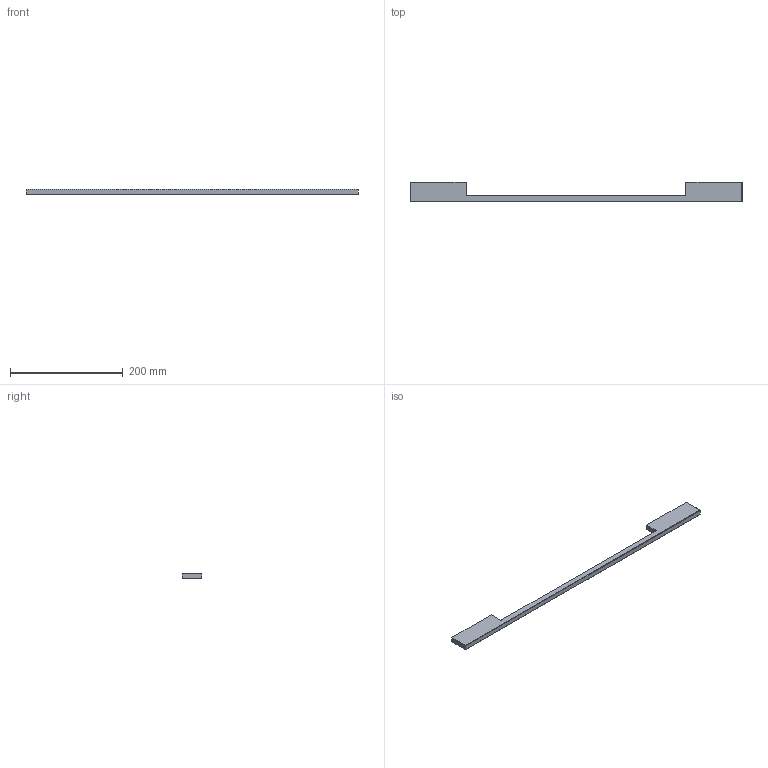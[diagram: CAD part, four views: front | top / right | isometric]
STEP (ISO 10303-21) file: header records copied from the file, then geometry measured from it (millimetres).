
FILE_DESCRIPTION( ( '' ), '1' );
FILE_NAME( 'D:/1.AUTOCAD EXPORT/Group 10/sheet_10_1/DONE/Sachin_1/9995590.stp', '2013-10-29T10:05:05', ( '' ), ( '' ), ' ', ' ', ' ' );
FILE_SCHEMA( ( 'CONFIG_CONTROL_DESIGN' ) );
Length unit declared in the file: millimetre
Products named in the file (1): 1
Bounding box: 588 x 35 x 9 mm (x, y, z)
Volume: 103372.8 mm3; surface area: 34231.6 mm2
Topology: 1 solids, 1 shells, 26 faces, 62 edges, 40 vertices
Faces by surface type: cylinder 15, plane 11
Entity records: 828 total; most frequent: CARTESIAN_POINT 165, DIRECTION 134, ORIENTED_EDGE 124, EDGE_CURVE 62, AXIS2_PLACEMENT_3D 49, VERTEX_POINT 40, LINE 36, VECTOR 36
